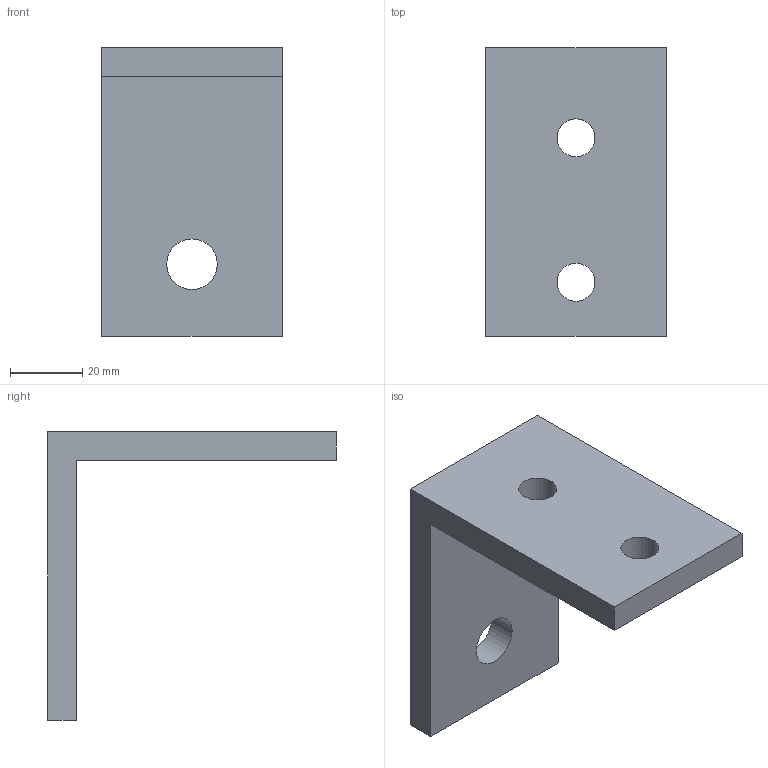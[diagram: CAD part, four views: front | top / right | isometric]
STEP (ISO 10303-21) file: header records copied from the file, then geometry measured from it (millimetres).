
FILE_DESCRIPTION(/* description */ (''),/* implementation_level */ '2;1');
FILE_NAME(/* name */ 'Pos148-Hoeklijn 80x80x8-Aluminium-2st_M',/* time_stamp */ '2024-08-06T11:49:44+02:00',/* author */ (''),/* organization */ (''),/* preprocessor_version */ 'ST-DEVELOPER v16.5',/* originating_system */ 'HiCAD 2024 2901.2 Build 361',/* authorisation */ '');
FILE_SCHEMA (('AUTOMOTIVE_DESIGN { 1 0 10303 214 1 1 1 1 }'));
Length unit declared in the file: millimetre
Products named in the file (1): Pos148-Hoeklijn 80x80x8-Aluminium-2st
Bounding box: 50 x 80 x 80 mm (x, y, z)
Volume: 58183.1 mm3; surface area: 18657.4 mm2
Topology: 1 solids, 1 shells, 11 faces, 29 edges, 20 vertices
Faces by surface type: plane 8, cylinder 3
Full cylindrical faces by diameter (mm): 10.5 x2, 14 x1
Entity records: 582 total; most frequent: CARTESIAN_POINT 53, DIRECTION 52, PRESENTATION_STYLE_ASSIGNMENT 49, COLOUR_RGB 49, DRAUGHTING_PRE_DEFINED_CURVE_FONT 48, CURVE_STYLE 48, OVER_RIDING_STYLED_ITEM 48, ORIENTED_EDGE 48
